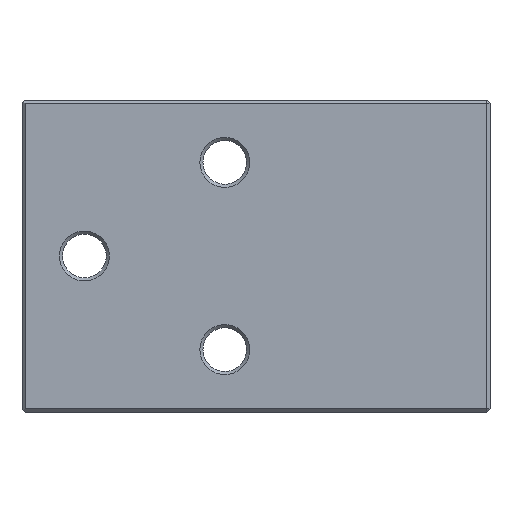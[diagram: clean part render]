
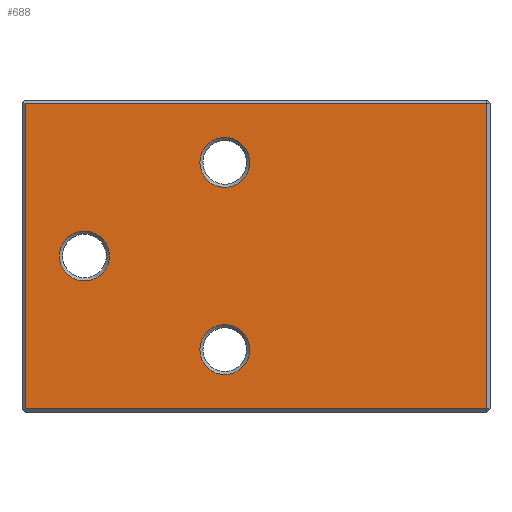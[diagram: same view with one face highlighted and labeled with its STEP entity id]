
A CAD part, front view. The second image highlights one B-rep face of the part: STEP entity #688.
In plain terms, the highlighted planar face has unit normal (0, -1, 0).
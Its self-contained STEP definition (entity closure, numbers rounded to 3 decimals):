
#44=FACE_BOUND('',#116,.T.);
#45=FACE_BOUND('',#117,.T.);
#46=FACE_BOUND('',#118,.T.);
#53=PLANE('',#751);
#74=FACE_OUTER_BOUND('',#115,.T.);
#115=EDGE_LOOP('',(#456,#457,#458,#459));
#116=EDGE_LOOP('',(#460));
#117=EDGE_LOOP('',(#461));
#118=EDGE_LOOP('',(#462));
#165=LINE('',#1060,#216);
#166=LINE('',#1062,#217);
#167=LINE('',#1064,#218);
#168=LINE('',#1065,#219);
#216=VECTOR('',#842,10.);
#217=VECTOR('',#843,10.);
#218=VECTOR('',#844,10.);
#219=VECTOR('',#845,10.);
#266=CIRCLE('',#749,8.);
#268=CIRCLE('',#752,8.);
#269=CIRCLE('',#753,8.);
#298=VERTEX_POINT('',#1052);
#300=VERTEX_POINT('',#1058);
#301=VERTEX_POINT('',#1059);
#302=VERTEX_POINT('',#1061);
#303=VERTEX_POINT('',#1063);
#304=VERTEX_POINT('',#1066);
#305=VERTEX_POINT('',#1068);
#357=EDGE_CURVE('',#298,#298,#266,.T.);
#360=EDGE_CURVE('',#300,#301,#165,.T.);
#361=EDGE_CURVE('',#302,#300,#166,.T.);
#362=EDGE_CURVE('',#303,#302,#167,.T.);
#363=EDGE_CURVE('',#301,#303,#168,.T.);
#364=EDGE_CURVE('',#304,#304,#268,.T.);
#365=EDGE_CURVE('',#305,#305,#269,.T.);
#456=ORIENTED_EDGE('',*,*,#360,.F.);
#457=ORIENTED_EDGE('',*,*,#361,.F.);
#458=ORIENTED_EDGE('',*,*,#362,.F.);
#459=ORIENTED_EDGE('',*,*,#363,.F.);
#460=ORIENTED_EDGE('',*,*,#364,.F.);
#461=ORIENTED_EDGE('',*,*,#365,.F.);
#462=ORIENTED_EDGE('',*,*,#357,.F.);
#688=ADVANCED_FACE('',(#74,#44,#45,#46),#53,.T.);
#749=AXIS2_PLACEMENT_3D('',#1053,#835,#836);
#751=AXIS2_PLACEMENT_3D('',#1057,#840,#841);
#752=AXIS2_PLACEMENT_3D('',#1067,#846,#847);
#753=AXIS2_PLACEMENT_3D('',#1069,#848,#849);
#835=DIRECTION('center_axis',(0.,-1.,0.));
#836=DIRECTION('ref_axis',(1.,0.,0.));
#840=DIRECTION('center_axis',(0.,-1.,0.));
#841=DIRECTION('ref_axis',(1.,0.,0.));
#842=DIRECTION('',(-1.,0.,0.));
#843=DIRECTION('',(0.,0.,-1.));
#844=DIRECTION('',(1.,0.,0.));
#845=DIRECTION('',(0.,0.,1.));
#846=DIRECTION('center_axis',(0.,-1.,0.));
#847=DIRECTION('ref_axis',(1.,0.,0.));
#848=DIRECTION('center_axis',(0.,-1.,0.));
#849=DIRECTION('ref_axis',(1.,0.,0.));
#1052=CARTESIAN_POINT('',(12.,0.,50.));
#1053=CARTESIAN_POINT('Origin',(20.,0.,50.));
#1057=CARTESIAN_POINT('Origin',(1.,0.,0.));
#1058=CARTESIAN_POINT('',(149.,0.,1.));
#1059=CARTESIAN_POINT('',(1.,0.,1.));
#1060=CARTESIAN_POINT('',(38.,0.,1.));
#1061=CARTESIAN_POINT('',(149.,0.,99.));
#1062=CARTESIAN_POINT('',(149.,0.,0.));
#1063=CARTESIAN_POINT('',(1.,0.,99.));
#1064=CARTESIAN_POINT('',(38.,0.,99.));
#1065=CARTESIAN_POINT('',(1.,0.,0.));
#1066=CARTESIAN_POINT('',(57.,0.,20.));
#1067=CARTESIAN_POINT('Origin',(65.,0.,20.));
#1068=CARTESIAN_POINT('',(57.,0.,80.));
#1069=CARTESIAN_POINT('Origin',(65.,0.,80.));
